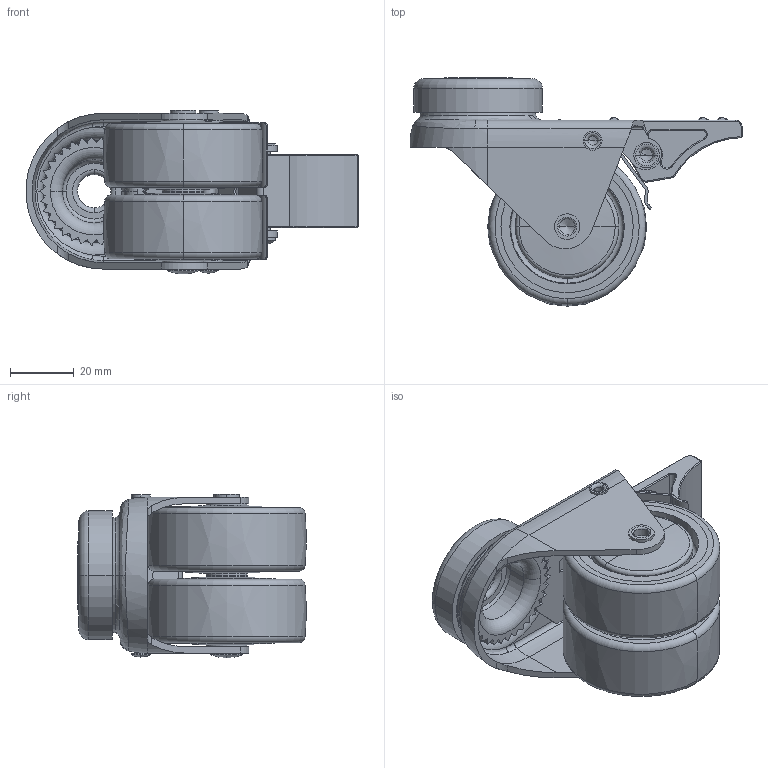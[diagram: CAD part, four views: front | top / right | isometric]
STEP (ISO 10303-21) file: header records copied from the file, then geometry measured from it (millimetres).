
FILE_DESCRIPTION((''),'2;1');
FILE_NAME('2053-50_ASM','2025-05-23T',('new'),(''),'PRO/ENGINEER BY PARAMETRIC TECHNOLOGY CORPORATION, 2015240','PRO/ENGINEER BY PARAMETRIC TECHNOLOGY CORPORATION, 2015240','');
FILE_SCHEMA(('CONFIG_CONTROL_DESIGN'));
Length unit declared in the file: millimetre
Products named in the file (16): 50SL-JZ____; 5X29MD____; 4X49MD____; BJ6____; 50SUNALEN-BOPAN1__; 50SUAN-LEN-XIAO-BUO-PAM____; BJ4____; 50X20SW____; 50-SUAN-LEN-MANPIAN____; 01__; 50-NEI-XIN__; 50-WAI-QUAN__; 6000__; 50-ZHUAN-SHI-GAI__; 50-_ASM; 2053-50_ASM
Assembly tree (17 placements, depth 3):
  2053-50_ASM
    50SL-JZ____
    5X29MD____
    4X49MD____
    BJ6____
    50SUNALEN-BOPAN1__
    50SUAN-LEN-XIAO-BUO-PAM____
    BJ4____
    50X20SW____
    50-SUAN-LEN-MANPIAN____
    01__
    50-_ASM  x2
      50-NEI-XIN__
      50-WAI-QUAN__
      6000__
      50-ZHUAN-SHI-GAI__
Bounding box: 104.41 x 71.76 x 51.5 mm (x, y, z)
Volume: 93980.6 mm3; surface area: 80608.7 mm2
Topology: 77 solids, 77 shells, 876 faces, 2182 edges, 1260 vertices
Faces by surface type: cylinder 293, plane 243, sphere 118, torus 116, cone 58, bspline 44, revolution 4
Entity records: 23823 total; most frequent: CARTESIAN_POINT 7151, DIRECTION 3556, ORIENTED_EDGE 3276, EDGE_CURVE 1638, AXIS2_PLACEMENT_3D 1412, VERTEX_POINT 1072, EDGE_LOOP 782, VECTOR 728
